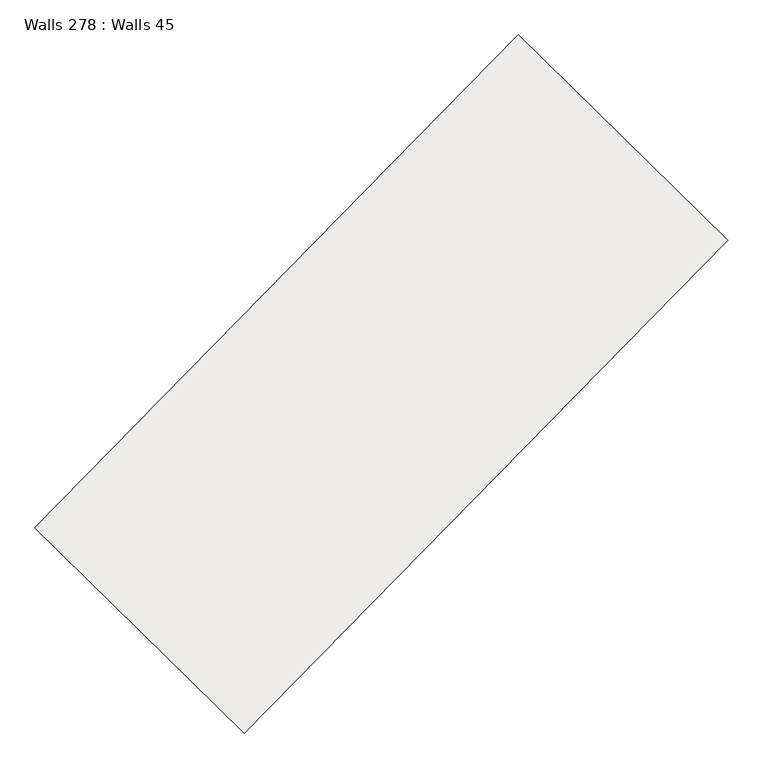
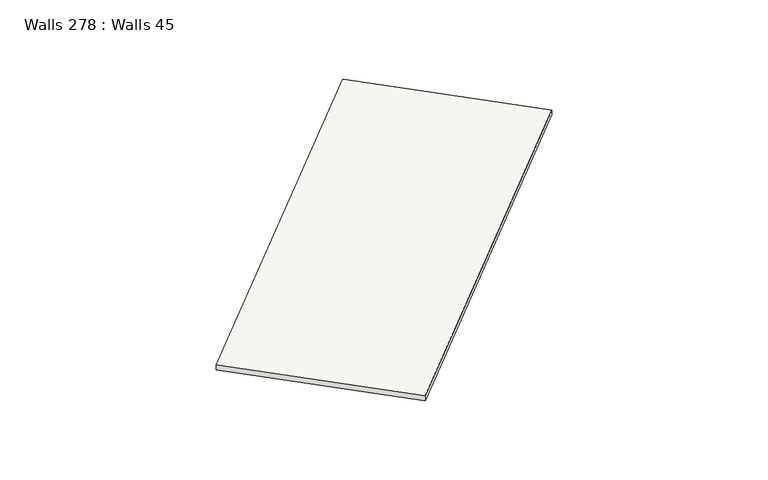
"""IFC4 building model written with IfcOpenShell, lengths in millimetres: slab geometry, Walls 278 : Walls 45."""

from ifc_helpers import new_model, si_unit, frame, origin, place, context, project, spatial, polyline, outline, extrude, source, transform, mapped, element, save


def walls_278_walls_45_df74c833(model_context):
    return source(origin(), model_context, "Body", "SweptSolid", [
        extrude(outline(polyline([(-50.0, 0.0), (50.0, 0.0), (-40.0, -8700.0000009), (-140.0, -8700.0000009), (-50.0, 0.0)])), frame((-109635.1277615, -271065.2327319, 636450.0), z_axis=(-0.7137361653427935, 0.7004146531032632, 0.0), x_axis=(0.0, 0.0, 1.0)), (0.0, 0.0, 1.0), 3699.999995),
    ])


if __name__ == "__main__":
    model = new_model("IFC4")
    model_context = context("Model", 3, world=origin())
    ifc_project = project(units=[si_unit("LENGTHUNIT", "METRE", prefix="MILLI")], contexts=[model_context])
    site = spatial("IfcSite", under=ifc_project)
    building = spatial("IfcBuilding", under=site)
    placement = place(None, origin())
    walls_278_walls_45_shape = walls_278_walls_45_df74c833(model_context)
    element("IfcSlab", 1, ObjectType="Walls 278 : Walls 45", at=placement, inside=building, context=model_context, shape_type="MappedRepresentation", body=[
        mapped(walls_278_walls_45_shape, transform((0.0, 0.0, 0.0), x_axis=(1.0, 0.0, 0.0), y_axis=(0.0, 1.0, 0.0), z_axis=(0.0, 0.0, 1.0))),
    ])
    save(model, "model.ifc")
